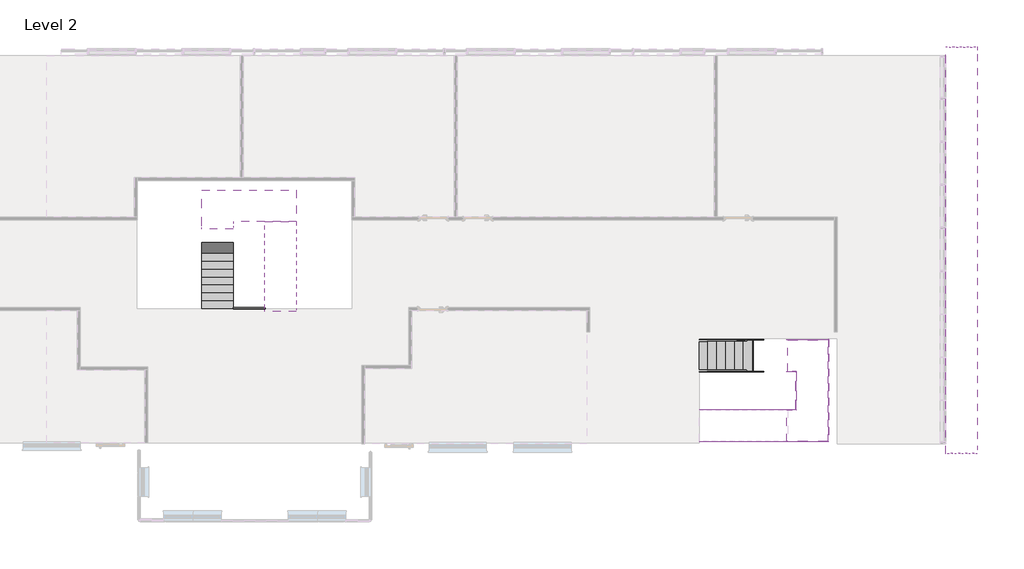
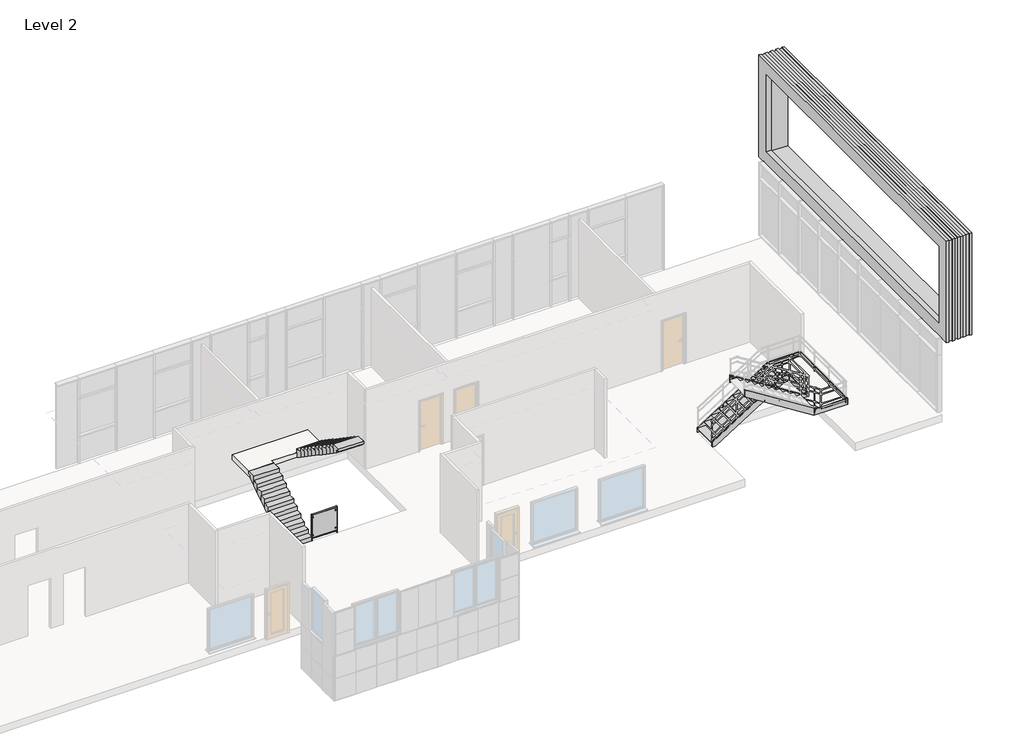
# One storey, part 7 of 7: 10 members, 3 stair flights, 2 slabs, 1 proxy, 1 railing.
"""IFC4 building model written with IfcOpenShell, lengths in millimetres."""

from ifc_helpers import new_model, si_unit, point, frame, origin, place, context, project, spatial, polyline, ellipse_curve, trimmed, outline, extrude, faceted_brep, transform, mapped, element, save
from ifc_brep_helpers import plane_surface, extruded_surface, advanced_brep
from components import external_facade2_external_facade_9c965de6, non_monolithic_landing_37051d89, concrete_steps_w_40mm_tread_40mm_nosing_ad7ad8f2

model = new_model("IFC4")

# Units and contexts
model_context = context("Model", 3, world=origin())
ifc_project = project(units=[si_unit("LENGTHUNIT", "METRE", prefix="MILLI")], contexts=[model_context])

# Site, building, storey
site = spatial("IfcSite", under=ifc_project)
building = spatial("IfcBuilding", under=site)
storey = spatial("IfcBuildingStorey", under=building, Name="Level 2", Elevation=7450.0)

# Proxy
placement = place(None, origin())
external_facade2_external_facade_shape = external_facade2_external_facade_9c965de6(model_context)
element("IfcBuildingElementProxy", 1, Name="External Facade2 : External Facade", ObjectType="External Facade2 : External Facade", at=placement, inside=storey, context=model_context, shape_type="MappedRepresentation", body=[
    mapped(external_facade2_external_facade_shape, transform((0.0, 0.0, 0.0), x_axis=(1.0, 0.0, 0.0), y_axis=(0.0, 1.0, 0.0), z_axis=(0.0, 0.0, 1.0))),
])

# Members
element("IfcMember", 2, ObjectType="Stringer-Paint-15mm_Width", at=placement, inside=storey, context=model_context, shape_type="SweptSolid", body=[
    extrude(outline(polyline([(9160.0, 38045.0082177), (9410.0, 38117.573169), (11201.0437535, 35292.2647128), (10905.0427575, 35292.2647128), (9160.0, 38045.0082177)])), frame((0.0, -3235.8571952, 0.0), z_axis=(0.0, 1.0, 0.0), x_axis=(0.0, 0.0, 1.0)), (0.0, 0.0, 1.0), 15.0),
])
element("IfcMember", 3, ObjectType="Stringer-Paint-15mm_Width", at=placement, inside=storey, context=model_context, shape_type="SweptSolid", body=[
    extrude(outline(polyline([(9160.0, 38045.0082177), (9410.0, 38117.573169), (11201.0437535, 35292.2647128), (10905.0427575, 35292.2647128), (9160.0, 38045.0082177)])), frame((0.0, -2220.8571952, 0.0), z_axis=(0.0, 1.0, 0.0), x_axis=(0.0, 0.0, 1.0)), (0.0, 0.0, 1.0), 15.0),
])
element("IfcMember", 4, ObjectType="Stringer-Paint-15mm_Width", at=placement, inside=storey, context=model_context, shape_type="SweptSolid", body=[
    extrude(outline(polyline([(7651.0437535, 35285.7942367), (7450.0, 35285.7942367), (7450.0, 35435.5859431), (9160.0, 38133.0507318), (9410.0, 38060.4857804), (7651.0437535, 35285.7942367)])), frame((0.0, 1.8025492, 0.0), z_axis=(0.0, 1.0, 0.0), x_axis=(0.0, 0.0, 1.0)), (0.0, 0.0, 1.0), 15.0),
])
element("IfcMember", 5, ObjectType="Stringer-Paint-15mm_Width", at=placement, inside=storey, context=model_context, shape_type="SweptSolid", body=[
    extrude(outline(polyline([(7651.0437535, 35285.7942367), (7450.0, 35285.7942367), (7450.0, 35435.5859431), (9160.0, 38133.0507318), (9410.0, 38060.4857804), (7651.0437535, 35285.7942367)])), frame((0.0, -1013.1974508, 0.0), z_axis=(0.0, 1.0, 0.0), x_axis=(0.0, 0.0, 1.0)), (0.0, 0.0, 1.0), 15.0),
])
element("IfcMember", 6, ObjectType="Stringer-Paint-15mm_Width", at=placement, inside=storey, context=model_context, shape_type="Brep", body=[
    faceted_brep([(38117.573169, -3220.8571952, 9410.0), (38117.573169, -3235.8571952, 9410.0), (39380.7942367, -3235.8571952, 9410.0), (39365.7942367, -3220.8571952, 9410.0), (38045.0082177, -3220.8571952, 9160.0), (39365.7942367, -3220.8571952, 9160.0), (38045.0082177, -3235.8571952, 9160.0), (39380.7942367, -3235.8571952, 9160.0)], [[[0, 1, 2, 3]], [[4, 0, 3, 5]], [[6, 4, 5, 7]], [[1, 6, 7, 2]], [[1, 0, 4, 6]], [[2, 7, 5, 3]]]),
])
element("IfcMember", 7, ObjectType="Stringer-Paint-15mm_Width", at=placement, inside=storey, context=model_context, shape_type="SweptSolid", body=[
    extrude(outline(polyline([(39380.7942367, -3235.8571952), (39365.7942367, -3220.8571952), (39365.7942367, 1.8025492), (39380.7942367, 16.8025492), (39380.7942367, -3235.8571952)])), frame((0.0, 0.0, 9160.0), z_axis=(0.0, 0.0, 1.0), x_axis=(1.0, 0.0, 0.0)), (0.0, 0.0, 1.0), 250.0),
])
element("IfcMember", 8, ObjectType="Stringer-Paint-15mm_Width", at=placement, inside=storey, context=model_context, shape_type="Brep", body=[
    faceted_brep([(39365.7942367, 1.8025492, 9410.0), (39380.7942367, 16.8025492, 9410.0), (38060.4857804, 16.8025492, 9410.0), (38060.4857804, 1.8025492, 9410.0), (39365.7942367, 1.8025492, 9160.0), (38133.0507318, 1.8025492, 9160.0), (39380.7942367, 16.8025492, 9160.0), (38133.0507318, 16.8025492, 9160.0)], [[[0, 1, 2, 3]], [[4, 0, 3, 5]], [[6, 4, 5, 7]], [[1, 6, 7, 2]], [[1, 0, 4, 6]], [[2, 7, 5, 3]]]),
])
element("IfcMember", 9, ObjectType="Stringer-Paint-15mm_Width", at=placement, inside=storey, context=model_context, shape_type="Brep", body=[
    faceted_brep([(38060.4857804, -998.1974508, 9410.0), (38060.4857804, -1013.1974508, 9410.0), (38350.7942367, -1013.1974508, 9410.0), (38365.7942367, -998.1974508, 9410.0), (38133.0507318, -998.1974508, 9160.0), (38365.7942367, -998.1974508, 9160.0), (38133.0507318, -1013.1974508, 9160.0), (38350.7942367, -1013.1974508, 9160.0)], [[[0, 1, 2, 3]], [[4, 0, 3, 5]], [[6, 4, 5, 7]], [[1, 6, 7, 2]], [[1, 0, 4, 6]], [[2, 7, 5, 3]]]),
])
element("IfcMember", 10, ObjectType="Stringer-Paint-15mm_Width", at=placement, inside=storey, context=model_context, shape_type="SweptSolid", body=[
    extrude(outline(polyline([(38350.7942367, -1013.1974508), (38365.7942367, -998.1974508), (38365.7942367, -2220.8571952), (38350.7942367, -2205.8571952), (38350.7942367, -1013.1974508)])), frame((0.0, 0.0, 9160.0), z_axis=(0.0, 0.0, 1.0), x_axis=(1.0, 0.0, 0.0)), (0.0, 0.0, 1.0), 250.0),
])
element("IfcMember", 11, ObjectType="Stringer-Paint-15mm_Width", at=placement, inside=storey, context=model_context, shape_type="Brep", body=[
    faceted_brep([(38365.7942367, -2220.8571952, 9410.0), (38350.7942367, -2205.8571952, 9410.0), (38117.573169, -2205.8571952, 9410.0), (38117.573169, -2220.8571952, 9410.0), (38365.7942367, -2220.8571952, 9160.0), (38045.0082177, -2220.8571952, 9160.0), (38350.7942367, -2205.8571952, 9160.0), (38045.0082177, -2205.8571952, 9160.0)], [[[0, 1, 2, 3]], [[4, 0, 3, 5]], [[6, 4, 5, 7]], [[1, 6, 7, 2]], [[1, 0, 4, 6]], [[2, 7, 5, 3]]]),
])

# Railing
element("IfcRailing", 12, ObjectType="Commercial - Glass w Fixings", at=placement, inside=storey, context=model_context, shape_type="SolidModel", body=[
    advanced_brep(
    [(20543.2942367, 999.3527269, 8567.5), (20543.2942367, 999.3527269, 8532.5), (21543.2942367, 999.3527269, 8567.5), (21543.2942367, 999.3527269, 8532.5)],
    [
        (0, 1, ellipse_curve(frame((20543.2942367, 999.3527269, 8550.0), z_axis=(-1.0, 0.0, 0.0), x_axis=(0.0, 0.0, -1.0)), 17.5, 25.0)),
        (1, 0, ellipse_curve(frame((20543.2942367, 999.3527269, 8550.0), z_axis=(-1.0, 0.0, 0.0), x_axis=(0.0, 0.0, -1.0)), 17.5, 25.0)),
        (2, 3, ellipse_curve(frame((21543.2942367, 999.3527269, 8550.0), z_axis=(1.0, 0.0, 0.0), x_axis=(0.0, 0.0, -1.0)), 17.5, 25.0)),
        (3, 2, ellipse_curve(frame((21543.2942367, 999.3527269, 8550.0), z_axis=(1.0, 0.0, 0.0), x_axis=(0.0, 0.0, -1.0)), 17.5, 25.0)),
        (0, 2),
        (3, 1),
    ],
    [
        plane_surface(frame((20543.2942367, 999.3527269, 8550.0), z_axis=(-1.0, 0.0, 0.0), x_axis=(0.0, 1.0, 0.0))),
        plane_surface(frame((21543.2942367, 999.3527269, 8550.0), z_axis=(1.0, 0.0, 0.0), x_axis=(0.0, 1.0, 0.0))),
        extruded_surface(trimmed(ellipse_curve(frame((21543.2942367, 999.3527269, 8550.0), z_axis=(-1.0, 0.0, 0.0), x_axis=(0.0, 0.0, -1.0)), 17.5, 25.0), [point((21543.2942367, 999.3527269, 8567.5))], [point((21543.2942367, 999.3527269, 8532.5))], True, "CARTESIAN"), (-1000.0, 0.0, 0.0), 1000.0),
        extruded_surface(trimmed(ellipse_curve(frame((21543.2942367, 999.3527269, 8550.0), z_axis=(-1.0, 0.0, 0.0), x_axis=(0.0, 0.0, -1.0)), 17.5, 25.0), [point((21543.2942367, 999.3527269, 8532.5))], [point((21543.2942367, 999.3527269, 8567.5))], True, "CARTESIAN"), (-1000.0, 0.0, 0.0), 1000.0),
    ],
    [
        (0, [[1, 2]]),
        (1, [[3, 4]]),
        (2, [[-1, 5, -4, 6]]),
        (3, [[-2, -6, -3, -5]]),
    ],
),
    extrude(outline(polyline([(20543.2942367, 981.8527269), (20543.2942367, 1016.8527269), (21543.2942367, 1016.8527269), (21543.2942367, 981.8527269), (20543.2942367, 981.8527269)])), frame((0.0, 0.0, 7544.0), z_axis=(0.0, 0.0, 1.0), x_axis=(1.0, 0.0, 0.0)), (0.0, 0.0, 1.0), 6.0),
    extrude(outline(polyline([(21483.2942367, 1005.3527269), (21543.2942367, 1005.3527269), (21543.2942367, 993.3527269), (21483.2942367, 993.3527269), (21483.2942367, 1005.3527269)])), frame((0.0, 0.0, 7650.0), z_axis=(0.0, 0.0, 1.0), x_axis=(1.0, 0.0, 0.0)), (0.0, 0.0, 1.0), 50.0),
    extrude(outline(polyline([(21483.2942367, 1005.3527269), (21543.2942367, 1005.3527269), (21543.2942367, 993.3527269), (21483.2942367, 993.3527269), (21483.2942367, 1005.3527269)])), frame((0.0, 0.0, 8400.0), z_axis=(0.0, 0.0, 1.0), x_axis=(1.0, 0.0, 0.0)), (0.0, 0.0, 1.0), 50.0),
    extrude(outline(polyline([(20543.2942367, 1005.3527269), (20593.2942367, 1005.3527269), (20593.2942367, 993.3527269), (20543.2942367, 993.3527269), (20543.2942367, 1005.3527269)])), frame((0.0, 0.0, 7650.0), z_axis=(0.0, 0.0, 1.0), x_axis=(1.0, 0.0, 0.0)), (0.0, 0.0, 1.0), 50.0),
    extrude(outline(polyline([(20543.2942367, 1005.3527269), (20593.2942367, 1005.3527269), (20593.2942367, 993.3527269), (20543.2942367, 993.3527269), (20543.2942367, 1005.3527269)])), frame((0.0, 0.0, 8400.0), z_axis=(0.0, 0.0, 1.0), x_axis=(1.0, 0.0, 0.0)), (0.0, 0.0, 1.0), 50.0),
    extrude(outline(polyline([(20553.2942367, 1005.3527269), (21533.2942367, 1005.3527269), (21533.2942367, 993.3527269), (20553.2942367, 993.3527269), (20553.2942367, 1005.3527269)])), frame((0.0, 0.0, 7575.0), z_axis=(0.0, 0.0, 1.0), x_axis=(1.0, 0.0, 0.0)), (0.0, 0.0, 1.0), 950.0),
    extrude(outline(polyline([(21539.2942367, 981.8527269), (21539.2942367, 1016.8527269), (21547.2942367, 1016.8527269), (21547.2942367, 981.8527269), (21539.2942367, 981.8527269)])), frame((0.0, 0.0, 7450.0), z_axis=(0.0, 0.0, 1.0), x_axis=(1.0, 0.0, 0.0)), (0.0, 0.0, 1.0), 1082.5),
    extrude(outline(polyline([(20539.2942367, 981.8527269), (20539.2942367, 1016.8527269), (20547.2942367, 1016.8527269), (20547.2942367, 981.8527269), (20539.2942367, 981.8527269)])), frame((0.0, 0.0, 7450.0), z_axis=(0.0, 0.0, 1.0), x_axis=(1.0, 0.0, 0.0)), (0.0, 0.0, 1.0), 1082.5),
])

# Slabs
element("IfcSlab", 13, ObjectType="200mm Thickness - Concrete", at=placement, inside=storey, context=model_context, shape_type="SolidModel", body=[
    faceted_brep([(20543.2942367, 3749.3527269, 9139.4761905), (21543.2942367, 3749.3527269, 9139.4761905), (22543.2942367, 3749.3527269, 9139.4761905), (22543.2942367, 4749.3527269, 9139.4761905), (19543.2942367, 4749.3527269, 9139.4761905), (19543.2942367, 3609.3527269, 9139.4761905), (20543.2942367, 3609.3527269, 9139.4761905), (20543.2942367, 3749.3527269, 8939.4761905), (20543.2942367, 3609.3527269, 9029.4761905), (20543.2942367, 3509.3527269, 9029.4761905), (20543.2942367, 3509.3527269, 8939.4761905), (21543.2942367, 3749.3527269, 8939.4761905), (22543.2942367, 3749.3527269, 8939.4761905), (22543.2942367, 4749.3527269, 8939.4761905), (19543.2942367, 4749.3527269, 8939.4761905), (19543.2942367, 3509.3527269, 8939.4761905), (19543.2942367, 3509.3527269, 9029.4761905), (19543.2942367, 3609.3527269, 9029.4761905)], [[[0, 1, 2, 3, 4, 5, 6]], [[7, 0, 6, 8, 9, 10]], [[1, 0, 7, 11]], [[2, 1, 11, 12]], [[3, 2, 12, 13]], [[4, 3, 13, 14]], [[4, 14, 15, 16, 17, 5]], [[11, 7, 10, 15, 14, 13, 12]], [[16, 9, 8, 17]], [[17, 8, 6, 5]], [[9, 16, 15, 10]]]),
    extrude(outline(polyline([(19543.2942367, 3609.3527269), (19543.2942367, 4749.3527269), (22543.2942367, 4749.3527269), (22543.2942367, 3749.3527269), (21543.2942367, 3749.3527269), (20543.2942367, 3749.3527269), (20543.2942367, 3609.3527269), (19543.2942367, 3609.3527269)])), frame((0.0, 0.0, 9139.4761905), z_axis=(0.0, 0.0, 1.0), x_axis=(1.0, 0.0, 0.0)), (0.0, 0.0, 1.0), 1.0),
])
non_monolithic_landing_shape = non_monolithic_landing_37051d89(model_context)
element("IfcSlab", 14, ObjectType="Non-Monolithic_Landing", at=placement, inside=storey, context=model_context, shape_type="MappedRepresentation", body=[
    mapped(non_monolithic_landing_shape, transform((0.0, 0.0, 0.0), x_axis=(1.0, 0.0, 0.0), y_axis=(0.0, 1.0, 0.0), z_axis=(0.0, 0.0, 1.0))),
])

# Stair flights
element("IfcStairFlight", 15, ObjectType="1mm Tread 170mm Structural Depth", at=placement, inside=storey, context=model_context, shape_type="SolidModel", body=[
    faceted_brep([(19543.2942367, 1249.3527269, 7618.047619), (19543.2942367, 999.3527269, 7618.047619), (20543.2942367, 999.3527269, 7618.047619), (20543.2942367, 1249.3527269, 7618.047619), (19543.2942367, 1249.3527269, 7450.0), (19543.2942367, 999.3527269, 7450.0), (20543.2942367, 999.3527269, 7450.0), (20543.2942367, 1249.3527269, 7450.0), (19543.2942367, 1499.3527269, 7787.0952381), (19543.2942367, 1249.3527269, 7787.0952381), (20543.2942367, 1249.3527269, 7787.0952381), (20543.2942367, 1499.3527269, 7787.0952381), (19543.2942367, 1499.3527269, 7581.8781582), (19543.2942367, 1304.3216479, 7450.0), (20543.2942367, 1304.3216479, 7450.0), (20543.2942367, 1499.3527269, 7581.8781582), (19543.2942367, 1749.3527269, 7956.1428571), (19543.2942367, 1499.3527269, 7956.1428571), (20543.2942367, 1499.3527269, 7956.1428571), (20543.2942367, 1749.3527269, 7956.1428571), (19543.2942367, 1749.3527269, 7750.9257772), (20543.2942367, 1749.3527269, 7750.9257772), (19543.2942367, 1999.3527269, 8125.1904762), (19543.2942367, 1749.3527269, 8125.1904762), (20543.2942367, 1749.3527269, 8125.1904762), (20543.2942367, 1999.3527269, 8125.1904762), (19543.2942367, 1999.3527269, 7919.9733963), (20543.2942367, 1999.3527269, 7919.9733963), (19543.2942367, 2249.3527269, 8294.2380952), (19543.2942367, 1999.3527269, 8294.2380952), (20543.2942367, 1999.3527269, 8294.2380952), (20543.2942367, 2249.3527269, 8294.2380952), (19543.2942367, 2249.3527269, 8089.0210153), (20543.2942367, 2249.3527269, 8089.0210153), (19543.2942367, 2499.3527269, 8463.2857143), (19543.2942367, 2249.3527269, 8463.2857143), (20543.2942367, 2249.3527269, 8463.2857143), (20543.2942367, 2499.3527269, 8463.2857143), (19543.2942367, 2499.3527269, 8258.0686344), (20543.2942367, 2499.3527269, 8258.0686344), (19543.2942367, 2749.3527269, 8632.3333333), (19543.2942367, 2499.3527269, 8632.3333333), (20543.2942367, 2499.3527269, 8632.3333333), (20543.2942367, 2749.3527269, 8632.3333333), (19543.2942367, 2749.3527269, 8427.1162534), (20543.2942367, 2749.3527269, 8427.1162534), (19543.2942367, 2999.3527269, 8801.3809524), (19543.2942367, 2749.3527269, 8801.3809524), (20543.2942367, 2749.3527269, 8801.3809524), (20543.2942367, 2999.3527269, 8801.3809524), (19543.2942367, 2999.3527269, 8596.1638725), (20543.2942367, 2999.3527269, 8596.1638725), (19543.2942367, 3249.3527269, 8970.4285714), (19543.2942367, 2999.3527269, 8970.4285714), (20543.2942367, 2999.3527269, 8970.4285714), (20543.2942367, 3249.3527269, 8970.4285714), (19543.2942367, 3249.3527269, 8765.2114915), (20543.2942367, 3249.3527269, 8765.2114915), (19543.2942367, 3249.3527269, 9139.4761905), (20543.2942367, 3249.3527269, 9139.4761905), (20543.2942367, 3599.3527269, 9139.4761905), (19543.2942367, 3599.3527269, 9139.4761905), (19543.2942367, 3599.3527269, 9039.4761905), (19543.2942367, 3499.3527269, 9039.4761905), (19543.2942367, 3499.3527269, 8934.2591106), (20543.2942367, 3499.3527269, 8934.2591106), (20543.2942367, 3499.3527269, 9039.4761905), (20543.2942367, 3599.3527269, 9039.4761905)], [[[0, 1, 2, 3]], [[1, 0, 4, 5]], [[2, 1, 5, 6]], [[3, 2, 6, 7]], [[8, 9, 10, 11]], [[4, 0, 9, 8, 12, 13]], [[0, 3, 10, 9]], [[3, 7, 14, 15, 11, 10]], [[16, 17, 18, 19]], [[17, 16, 20, 12, 8]], [[8, 11, 18, 17]], [[19, 18, 11, 15, 21]], [[22, 23, 24, 25]], [[23, 22, 26, 20, 16]], [[16, 19, 24, 23]], [[25, 24, 19, 21, 27]], [[28, 29, 30, 31]], [[29, 28, 32, 26, 22]], [[22, 25, 30, 29]], [[31, 30, 25, 27, 33]], [[34, 35, 36, 37]], [[35, 34, 38, 32, 28]], [[28, 31, 36, 35]], [[37, 36, 31, 33, 39]], [[40, 41, 42, 43]], [[41, 40, 44, 38, 34]], [[34, 37, 42, 41]], [[43, 42, 37, 39, 45]], [[46, 47, 48, 49]], [[47, 46, 50, 44, 40]], [[40, 43, 48, 47]], [[49, 48, 43, 45, 51]], [[52, 53, 54, 55]], [[53, 52, 56, 50, 46]], [[46, 49, 54, 53]], [[55, 54, 49, 51, 57]], [[58, 59, 60, 61]], [[58, 61, 62, 63, 64, 56, 52]], [[52, 55, 59, 58]], [[60, 59, 55, 57, 65, 66, 67]], [[65, 64, 63, 66]], [[5, 4, 13, 14, 7, 6]], [[14, 13, 12, 20, 26, 32, 38, 44, 50, 56, 64, 65, 57, 51, 45, 39, 33, 27, 21, 15]], [[67, 66, 63, 62]], [[67, 62, 61, 60]]]),
    extrude(outline(polyline([(19543.2942367, 1249.3527269), (20543.2942367, 1249.3527269), (20543.2942367, 999.3527269), (19543.2942367, 999.3527269), (19543.2942367, 1249.3527269)])), frame((0.0, 0.0, 7618.047619), z_axis=(0.0, 0.0, 1.0), x_axis=(1.0, 0.0, 0.0)), (0.0, 0.0, 1.0), 1.0),
    extrude(outline(polyline([(19543.2942367, 1499.3527269), (20543.2942367, 1499.3527269), (20543.2942367, 1249.3527269), (19543.2942367, 1249.3527269), (19543.2942367, 1499.3527269)])), frame((0.0, 0.0, 7787.0952381), z_axis=(0.0, 0.0, 1.0), x_axis=(1.0, 0.0, 0.0)), (0.0, 0.0, 1.0), 1.0),
    extrude(outline(polyline([(19543.2942367, 1749.3527269), (20543.2942367, 1749.3527269), (20543.2942367, 1499.3527269), (19543.2942367, 1499.3527269), (19543.2942367, 1749.3527269)])), frame((0.0, 0.0, 7956.1428571), z_axis=(0.0, 0.0, 1.0), x_axis=(1.0, 0.0, 0.0)), (0.0, 0.0, 1.0), 1.0),
    extrude(outline(polyline([(19543.2942367, 1999.3527269), (20543.2942367, 1999.3527269), (20543.2942367, 1749.3527269), (19543.2942367, 1749.3527269), (19543.2942367, 1999.3527269)])), frame((0.0, 0.0, 8125.1904762), z_axis=(0.0, 0.0, 1.0), x_axis=(1.0, 0.0, 0.0)), (0.0, 0.0, 1.0), 1.0),
    extrude(outline(polyline([(19543.2942367, 2249.3527269), (20543.2942367, 2249.3527269), (20543.2942367, 1999.3527269), (19543.2942367, 1999.3527269), (19543.2942367, 2249.3527269)])), frame((0.0, 0.0, 8294.2380952), z_axis=(0.0, 0.0, 1.0), x_axis=(1.0, 0.0, 0.0)), (0.0, 0.0, 1.0), 1.0),
    extrude(outline(polyline([(19543.2942367, 2499.3527269), (20543.2942367, 2499.3527269), (20543.2942367, 2249.3527269), (19543.2942367, 2249.3527269), (19543.2942367, 2499.3527269)])), frame((0.0, 0.0, 8463.2857143), z_axis=(0.0, 0.0, 1.0), x_axis=(1.0, 0.0, 0.0)), (0.0, 0.0, 1.0), 1.0),
    extrude(outline(polyline([(19543.2942367, 2749.3527269), (20543.2942367, 2749.3527269), (20543.2942367, 2499.3527269), (19543.2942367, 2499.3527269), (19543.2942367, 2749.3527269)])), frame((0.0, 0.0, 8632.3333333), z_axis=(0.0, 0.0, 1.0), x_axis=(1.0, 0.0, 0.0)), (0.0, 0.0, 1.0), 1.0),
    extrude(outline(polyline([(19543.2942367, 2999.3527269), (20543.2942367, 2999.3527269), (20543.2942367, 2749.3527269), (19543.2942367, 2749.3527269), (19543.2942367, 2999.3527269)])), frame((0.0, 0.0, 8801.3809524), z_axis=(0.0, 0.0, 1.0), x_axis=(1.0, 0.0, 0.0)), (0.0, 0.0, 1.0), 1.0),
    extrude(outline(polyline([(19543.2942367, 3249.3527269), (20543.2942367, 3249.3527269), (20543.2942367, 2999.3527269), (19543.2942367, 2999.3527269), (19543.2942367, 3249.3527269)])), frame((0.0, 0.0, 8970.4285714), z_axis=(0.0, 0.0, 1.0), x_axis=(1.0, 0.0, 0.0)), (0.0, 0.0, 1.0), 1.0),
    extrude(outline(polyline([(19543.2942367, 3599.3527269), (20543.2942367, 3599.3527269), (20543.2942367, 3499.3527269), (20543.2942367, 3249.3527269), (19543.2942367, 3249.3527269), (19543.2942367, 3499.3527269), (19543.2942367, 3599.3527269)])), frame((0.0, 0.0, 9139.4761905), z_axis=(0.0, 0.0, 1.0), x_axis=(1.0, 0.0, 0.0)), (0.0, 0.0, 1.0), 1.0),
])
element("IfcStairFlight", 16, ObjectType="1mm Tread 170mm Structural Depth", at=placement, inside=storey, context=model_context, shape_type="SolidModel", body=[
    faceted_brep([(22543.2942367, 3749.3527269, 9308.5238095), (21543.2942367, 3749.3527269, 9308.5238095), (21543.2942367, 3741.637327, 9308.5238095), (21543.2942367, 3499.3527269, 9308.5238095), (22543.2942367, 3499.3527269, 9308.5238095), (22543.2942367, 3741.637327, 9308.5238095), (22543.2942367, 3499.3527269, 9103.3067296), (22543.2942367, 3741.637327, 8939.4761905), (22543.2942367, 3749.3527269, 8939.4761905), (21543.2942367, 3749.3527269, 8939.4761905), (21543.2942367, 3741.637327, 8939.4761905), (21543.2942367, 3499.3527269, 9103.3067296), (22543.2942367, 3249.3527269, 9477.5714286), (22543.2942367, 3499.3527269, 9477.5714286), (21543.2942367, 3499.3527269, 9477.5714286), (21543.2942367, 3249.3527269, 9477.5714286), (22543.2942367, 3249.3527269, 9272.3543487), (21543.2942367, 3249.3527269, 9272.3543487), (22543.2942367, 2999.3527269, 9646.6190476), (22543.2942367, 3249.3527269, 9646.6190476), (21543.2942367, 3249.3527269, 9646.6190476), (21543.2942367, 2999.3527269, 9646.6190476), (22543.2942367, 2999.3527269, 9441.4019677), (21543.2942367, 2999.3527269, 9441.4019677), (22543.2942367, 2749.3527269, 9815.6666667), (22543.2942367, 2999.3527269, 9815.6666667), (21543.2942367, 2999.3527269, 9815.6666667), (21543.2942367, 2749.3527269, 9815.6666667), (22543.2942367, 2749.3527269, 9610.4495868), (21543.2942367, 2749.3527269, 9610.4495868), (22543.2942367, 2499.3527269, 9984.7142857), (22543.2942367, 2749.3527269, 9984.7142857), (21543.2942367, 2749.3527269, 9984.7142857), (21543.2942367, 2499.3527269, 9984.7142857), (22543.2942367, 2499.3527269, 9779.4972058), (21543.2942367, 2499.3527269, 9779.4972058), (22543.2942367, 2249.3527269, 10153.7619048), (22543.2942367, 2499.3527269, 10153.7619048), (21543.2942367, 2499.3527269, 10153.7619048), (21543.2942367, 2249.3527269, 10153.7619048), (22543.2942367, 2249.3527269, 9948.5448249), (21543.2942367, 2249.3527269, 9948.5448249), (22543.2942367, 1999.3527269, 10322.8095238), (22543.2942367, 2249.3527269, 10322.8095238), (21543.2942367, 2249.3527269, 10322.8095238), (21543.2942367, 1999.3527269, 10322.8095238), (22543.2942367, 1999.3527269, 10117.5924439), (21543.2942367, 1999.3527269, 10117.5924439), (22543.2942367, 1749.3527269, 10491.8571429), (22543.2942367, 1999.3527269, 10491.8571429), (21543.2942367, 1999.3527269, 10491.8571429), (21543.2942367, 1749.3527269, 10491.8571429), (22543.2942367, 1749.3527269, 10286.6400629), (21543.2942367, 1749.3527269, 10286.6400629), (22543.2942367, 1499.3527269, 10660.9047619), (22543.2942367, 1749.3527269, 10660.9047619), (21543.2942367, 1749.3527269, 10660.9047619), (21543.2942367, 1499.3527269, 10660.9047619), (22543.2942367, 1499.3527269, 10455.687682), (21543.2942367, 1499.3527269, 10455.687682), (22543.2942367, 1249.3527269, 10829.952381), (22543.2942367, 1499.3527269, 10829.952381), (21543.2942367, 1499.3527269, 10829.952381), (21543.2942367, 1249.3527269, 10829.952381), (22543.2942367, 1249.3527269, 10624.735301), (21543.2942367, 1249.3527269, 10624.735301), (22543.2942367, 1249.3527269, 10999.0), (21543.2942367, 1249.3527269, 10999.0), (21543.2942367, 899.3527269, 10999.0), (22543.2942367, 899.3527269, 10999.0), (22543.2942367, 899.3527269, 10899.0), (22543.2942367, 999.3527269, 10899.0), (22543.2942367, 999.3527269, 10793.7829201), (21543.2942367, 999.3527269, 10793.7829201), (21543.2942367, 999.3527269, 10899.0), (21543.2942367, 899.3527269, 10899.0)], [[[0, 1, 2, 3, 4, 5]], [[4, 6, 7, 8, 0, 5]], [[1, 0, 8, 9]], [[1, 9, 10, 11, 3, 2]], [[12, 13, 14, 15]], [[13, 12, 16, 6, 4]], [[14, 13, 4, 3]], [[15, 14, 3, 11, 17]], [[18, 19, 20, 21]], [[19, 18, 22, 16, 12]], [[20, 19, 12, 15]], [[21, 20, 15, 17, 23]], [[24, 25, 26, 27]], [[25, 24, 28, 22, 18]], [[26, 25, 18, 21]], [[27, 26, 21, 23, 29]], [[30, 31, 32, 33]], [[31, 30, 34, 28, 24]], [[32, 31, 24, 27]], [[33, 32, 27, 29, 35]], [[36, 37, 38, 39]], [[37, 36, 40, 34, 30]], [[38, 37, 30, 33]], [[39, 38, 33, 35, 41]], [[42, 43, 44, 45]], [[43, 42, 46, 40, 36]], [[44, 43, 36, 39]], [[45, 44, 39, 41, 47]], [[48, 49, 50, 51]], [[49, 48, 52, 46, 42]], [[50, 49, 42, 45]], [[51, 50, 45, 47, 53]], [[54, 55, 56, 57]], [[55, 54, 58, 52, 48]], [[56, 55, 48, 51]], [[57, 56, 51, 53, 59]], [[60, 61, 62, 63]], [[61, 60, 64, 58, 54]], [[62, 61, 54, 57]], [[63, 62, 57, 59, 65]], [[66, 67, 68, 69]], [[66, 69, 70, 71, 72, 64, 60]], [[67, 66, 60, 63]], [[68, 67, 63, 65, 73, 74, 75]], [[73, 72, 71, 74]], [[10, 7, 6, 16, 22, 28, 34, 40, 46, 52, 58, 64, 72, 73, 65, 59, 53, 47, 41, 35, 29, 23, 17, 11]], [[7, 10, 9, 8]], [[75, 74, 71, 70]], [[75, 70, 69, 68]]]),
    extrude(outline(polyline([(22543.2942367, 3499.3527269), (21543.2942367, 3499.3527269), (21543.2942367, 3749.3527269), (22543.2942367, 3749.3527269), (22543.2942367, 3499.3527269)])), frame((0.0, 0.0, 9308.5238095), z_axis=(0.0, 0.0, 1.0), x_axis=(1.0, 0.0, 0.0)), (0.0, 0.0, 1.0), 1.0),
    extrude(outline(polyline([(22543.2942367, 3249.3527269), (21543.2942367, 3249.3527269), (21543.2942367, 3499.3527269), (22543.2942367, 3499.3527269), (22543.2942367, 3249.3527269)])), frame((0.0, 0.0, 9477.5714286), z_axis=(0.0, 0.0, 1.0), x_axis=(1.0, 0.0, 0.0)), (0.0, 0.0, 1.0), 1.0),
    extrude(outline(polyline([(22543.2942367, 2999.3527269), (21543.2942367, 2999.3527269), (21543.2942367, 3249.3527269), (22543.2942367, 3249.3527269), (22543.2942367, 2999.3527269)])), frame((0.0, 0.0, 9646.6190476), z_axis=(0.0, 0.0, 1.0), x_axis=(1.0, 0.0, 0.0)), (0.0, 0.0, 1.0), 1.0),
    extrude(outline(polyline([(22543.2942367, 2749.3527269), (21543.2942367, 2749.3527269), (21543.2942367, 2999.3527269), (22543.2942367, 2999.3527269), (22543.2942367, 2749.3527269)])), frame((0.0, 0.0, 9815.6666667), z_axis=(0.0, 0.0, 1.0), x_axis=(1.0, 0.0, 0.0)), (0.0, 0.0, 1.0), 1.0),
    extrude(outline(polyline([(22543.2942367, 2499.3527269), (21543.2942367, 2499.3527269), (21543.2942367, 2749.3527269), (22543.2942367, 2749.3527269), (22543.2942367, 2499.3527269)])), frame((0.0, 0.0, 9984.7142857), z_axis=(0.0, 0.0, 1.0), x_axis=(1.0, 0.0, 0.0)), (0.0, 0.0, 1.0), 1.0),
    extrude(outline(polyline([(22543.2942367, 2249.3527269), (21543.2942367, 2249.3527269), (21543.2942367, 2499.3527269), (22543.2942367, 2499.3527269), (22543.2942367, 2249.3527269)])), frame((0.0, 0.0, 10153.7619048), z_axis=(0.0, 0.0, 1.0), x_axis=(1.0, 0.0, 0.0)), (0.0, 0.0, 1.0), 1.0),
    extrude(outline(polyline([(22543.2942367, 1999.3527269), (21543.2942367, 1999.3527269), (21543.2942367, 2249.3527269), (22543.2942367, 2249.3527269), (22543.2942367, 1999.3527269)])), frame((0.0, 0.0, 10322.8095238), z_axis=(0.0, 0.0, 1.0), x_axis=(1.0, 0.0, 0.0)), (0.0, 0.0, 1.0), 1.0),
    extrude(outline(polyline([(22543.2942367, 1749.3527269), (21543.2942367, 1749.3527269), (21543.2942367, 1999.3527269), (22543.2942367, 1999.3527269), (22543.2942367, 1749.3527269)])), frame((0.0, 0.0, 10491.8571429), z_axis=(0.0, 0.0, 1.0), x_axis=(1.0, 0.0, 0.0)), (0.0, 0.0, 1.0), 1.0),
    extrude(outline(polyline([(22543.2942367, 1499.3527269), (21543.2942367, 1499.3527269), (21543.2942367, 1749.3527269), (22543.2942367, 1749.3527269), (22543.2942367, 1499.3527269)])), frame((0.0, 0.0, 10660.9047619), z_axis=(0.0, 0.0, 1.0), x_axis=(1.0, 0.0, 0.0)), (0.0, 0.0, 1.0), 1.0),
    extrude(outline(polyline([(22543.2942367, 1249.3527269), (21543.2942367, 1249.3527269), (21543.2942367, 1499.3527269), (22543.2942367, 1499.3527269), (22543.2942367, 1249.3527269)])), frame((0.0, 0.0, 10829.952381), z_axis=(0.0, 0.0, 1.0), x_axis=(1.0, 0.0, 0.0)), (0.0, 0.0, 1.0), 1.0),
    extrude(outline(polyline([(22543.2942367, 899.3527269), (21543.2942367, 899.3527269), (21543.2942367, 1249.3527269), (22543.2942367, 1249.3527269), (22543.2942367, 899.3527269)])), frame((0.0, 0.0, 10999.0), z_axis=(0.0, 0.0, 1.0), x_axis=(1.0, 0.0, 0.0)), (0.0, 0.0, 1.0), 1.0),
])
concrete_steps_w_40mm_tread_40mm_nosing_shape = concrete_steps_w_40mm_tread_40mm_nosing_ad7ad8f2(model_context)
element("IfcStairFlight", 17, ObjectType="Concrete_Steps_w- 40mm_Tread-40mm_Nosing", at=placement, inside=storey, context=model_context, shape_type="MappedRepresentation", body=[
    mapped(concrete_steps_w_40mm_tread_40mm_nosing_shape, transform((0.0, 0.0, 0.0), x_axis=(1.0, 0.0, 0.0), y_axis=(0.0, 1.0, 0.0), z_axis=(0.0, 0.0, 1.0))),
])

save(model, "model.ifc")
